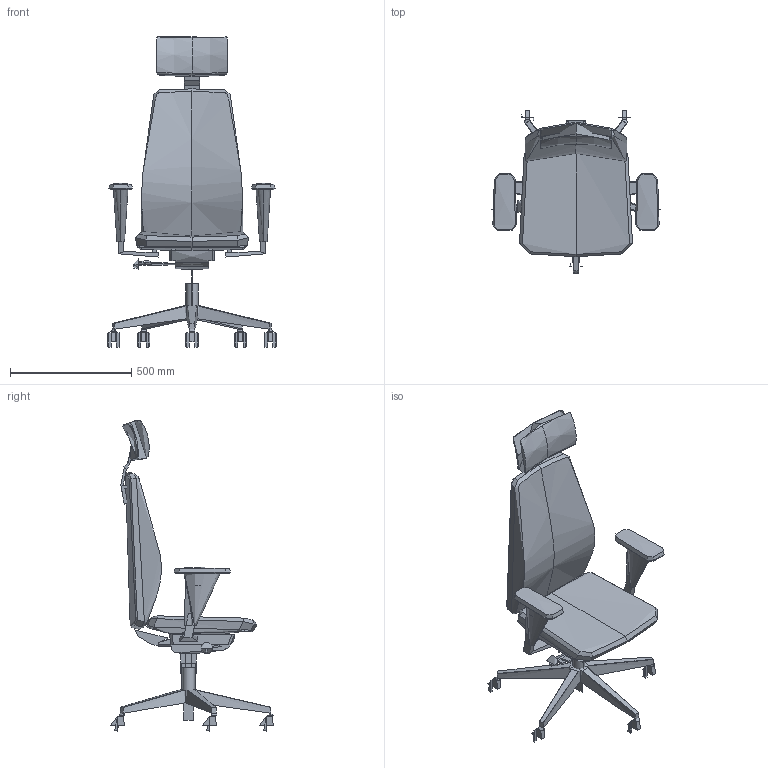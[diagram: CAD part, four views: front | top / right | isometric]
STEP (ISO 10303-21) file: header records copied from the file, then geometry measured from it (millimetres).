
FILE_DESCRIPTION(/* description */ (''),/* implementation_level */ '2;1');
FILE_NAME(/* name */ 'ALVA 330,SYA,BR-211,HO',/* time_stamp */ '2022-03-22T13:17:11+01:00',/* author */ (''),/* organization */ (''),/* preprocessor_version */ 'ST-DEVELOPER v16.5',/* originating_system */ 'Rhino 7.15',/* authorisation */ '');
FILE_SCHEMA (('CONFIG_CONTROL_DESIGN'));
Length unit declared in the file: millimetre
Products named in the file (1): Document
Bounding box: 694.82 x 672.19 x 1278.42 mm (x, y, z)
Volume: 16022396.2 mm3; surface area: 2155474.1 mm2
Topology: 10 solids, 58 shells, 484 faces, 1194 edges, 726 vertices
Faces by surface type: bspline 266, plane 124, cylinder 94
Entity records: 39003 total; most frequent: CARTESIAN_POINT 31913, ORIENTED_EDGE 2148, EDGE_CURVE 1172, VERTEX_POINT 724, B_SPLINE_CURVE_WITH_KNOTS 610, EDGE_LOOP 486, ADVANCED_FACE 484, FACE_OUTER_BOUND 484
